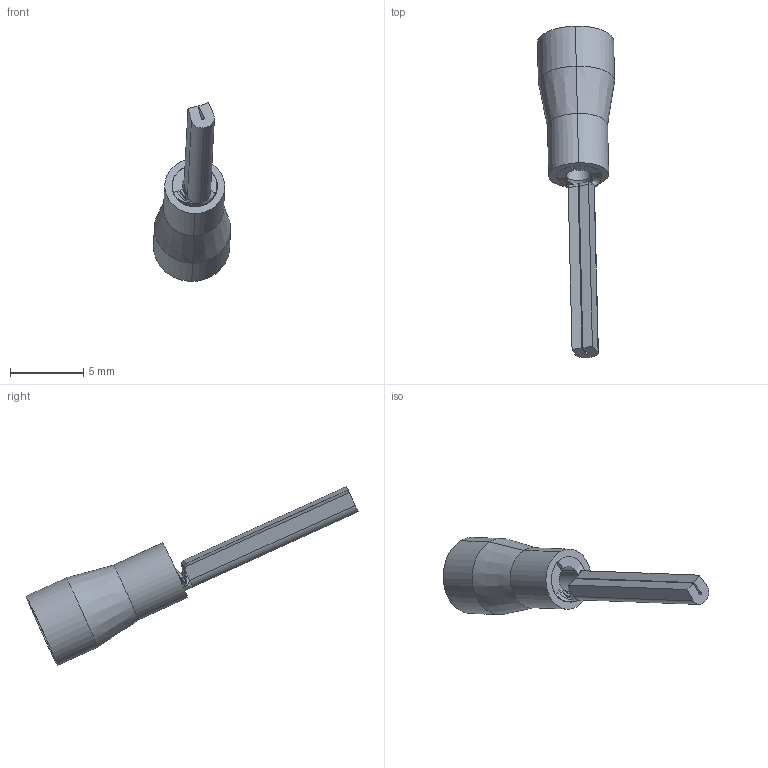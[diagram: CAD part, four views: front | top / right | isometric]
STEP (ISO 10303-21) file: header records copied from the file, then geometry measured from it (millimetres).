
FILE_DESCRIPTION (( 'STEP AP214' ), '1' );
FILE_NAME ('278018 OptiKit T-Shk-PVC-0,5-1,5.STEP', '2020-02-19T10:39:17', ( '' ), ( '' ), 'SwSTEP 2.0', 'SolidWorks 2018', '' );
FILE_SCHEMA (( 'AUTOMOTIVE_DESIGN' ));
Length unit declared in the file: millimetre
Products named in the file (3): Îïëåòêà 4,3; 阹糔 0,5-1,5; 278018 OptiKit T-Shk-PVC-0,5-1,5
Assembly tree (2 placements, depth 2):
  278018 OptiKit T-Shk-PVC-0,5-1,5
    阹糔 0,5-1,5
    Îïëåòêà 4,3
Bounding box: 5.26 x 22.65 x 12.2 mm (x, y, z)
Volume: 120.5 mm3; surface area: 461.4 mm2
Topology: 3 solids, 3 shells, 47 faces, 110 edges, 69 vertices
Faces by surface type: cylinder 17, plane 15, bspline 11, cone 4
Entity records: 1807 total; most frequent: CARTESIAN_POINT 654, ORIENTED_EDGE 220, DIRECTION 209, EDGE_CURVE 110, AXIS2_PLACEMENT_3D 79, VERTEX_POINT 69, VECTOR 51, LINE 51
